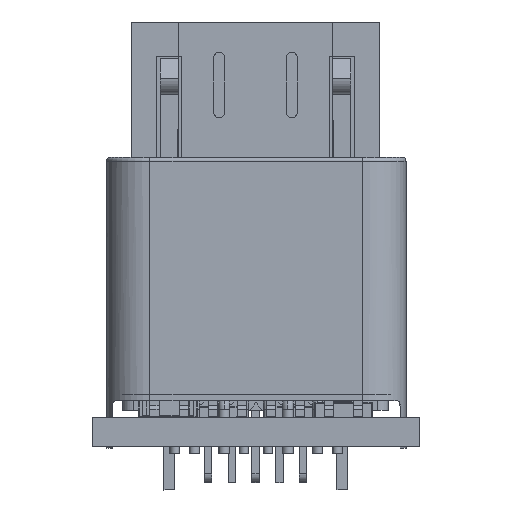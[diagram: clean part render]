
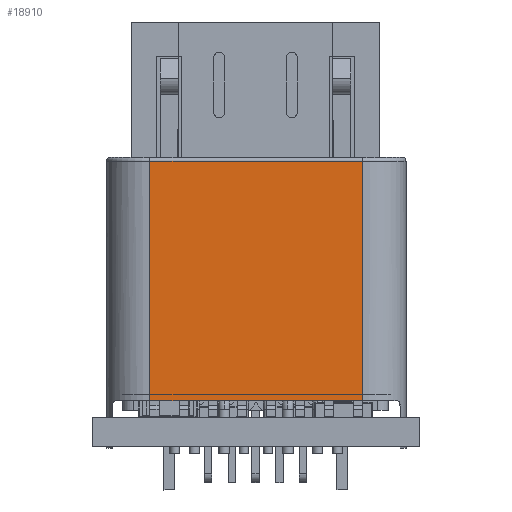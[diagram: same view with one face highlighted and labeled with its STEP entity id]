
A CAD part, front view. The second image highlights one B-rep face of the part: STEP entity #18910.
In plain terms, the highlighted planar face has unit normal (0, -1, 0).
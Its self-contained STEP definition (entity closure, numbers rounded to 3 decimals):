
#18147 = VERTEX_POINT('',#18148);
#18148 = CARTESIAN_POINT('',(-29.781,99.731,
    2.998));
#18155 = EDGE_CURVE('',#18156,#18147,#18158,.T.);
#18156 = VERTEX_POINT('',#18157);
#18157 = CARTESIAN_POINT('',(-29.781,99.731,
    -3.602));
#18158 = LINE('',#18159,#18160);
#18159 = CARTESIAN_POINT('',(-29.781,99.731,
    102.308));
#18160 = VECTOR('',#18161,1.);
#18161 = DIRECTION('',(0.,0.,1.));
#18331 = VERTEX_POINT('',#18332);
#18332 = CARTESIAN_POINT('',(-35.631,99.731,
    -3.602));
#18339 = EDGE_CURVE('',#18340,#18331,#18342,.T.);
#18340 = VERTEX_POINT('',#18341);
#18341 = CARTESIAN_POINT('',(-35.631,99.731,
    2.998));
#18342 = LINE('',#18343,#18344);
#18343 = CARTESIAN_POINT('',(-35.631,99.731,
    102.308));
#18344 = VECTOR('',#18345,1.);
#18345 = DIRECTION('',(0.,0.,-1.));
#18667 = EDGE_CURVE('',#18147,#18340,#18668,.T.);
#18668 = LINE('',#18669,#18670);
#18669 = CARTESIAN_POINT('',(0.,99.731,2.998));
#18670 = VECTOR('',#18671,1.);
#18671 = DIRECTION('',(-1.,0.,0.));
#18910 = ADVANCED_FACE('',(#18911),#18922,.F.);
#18911 = FACE_BOUND('',#18912,.T.);
#18912 = EDGE_LOOP('',(#18913,#18914,#18920,#18921));
#18913 = ORIENTED_EDGE('',*,*,#18339,.T.);
#18914 = ORIENTED_EDGE('',*,*,#18915,.T.);
#18915 = EDGE_CURVE('',#18331,#18156,#18916,.T.);
#18916 = LINE('',#18917,#18918);
#18917 = CARTESIAN_POINT('',(-29.781,99.731,
    -3.602));
#18918 = VECTOR('',#18919,1.);
#18919 = DIRECTION('',(1.,0.,0.));
#18920 = ORIENTED_EDGE('',*,*,#18155,.T.);
#18921 = ORIENTED_EDGE('',*,*,#18667,.T.);
#18922 = PLANE('',#18923);
#18923 = AXIS2_PLACEMENT_3D('',#18924,#18925,#18926);
#18924 = CARTESIAN_POINT('',(0.,99.731,102.308));
#18925 = DIRECTION('',(0.,1.,0.));
#18926 = DIRECTION('',(1.,0.,0.));
